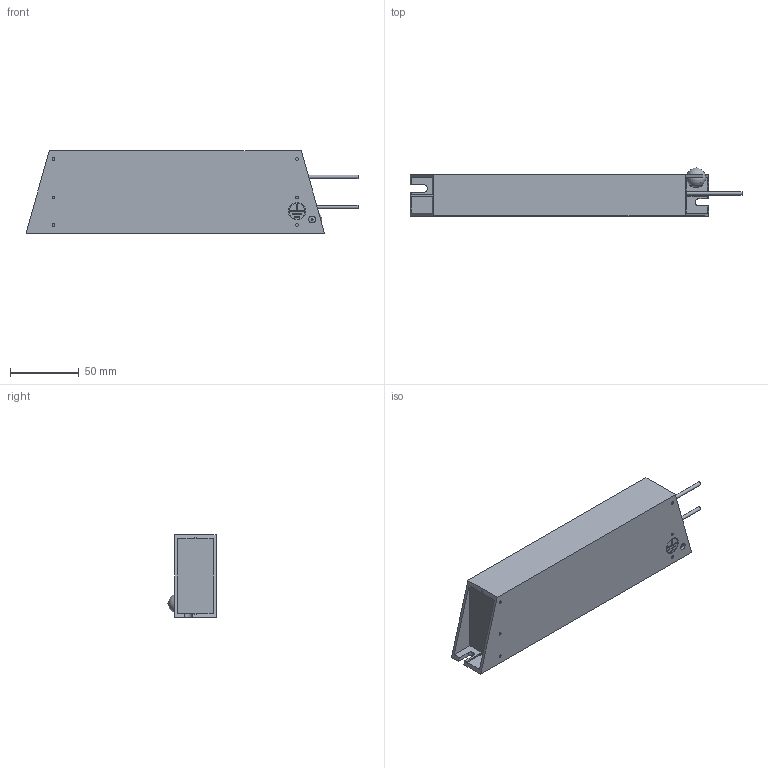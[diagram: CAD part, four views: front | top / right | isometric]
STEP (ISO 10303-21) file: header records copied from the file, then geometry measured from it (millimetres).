
FILE_DESCRIPTION(/* description */ ('STEP AP214'),/* implementation_level */ '2;1');
FILE_NAME(/* name */ 'psolqas_5636_927',/* time_stamp */ '2025-04-29T21:30:54+02:00',/* author */ ('License CC BY-ND 4.0'),/* organization */ ('CADENAS'),/* preprocessor_version */ 'ST-DEVELOPER v19.3',/* originating_system */ 'PARTsolutions',/* authorisation */ ' ');
FILE_SCHEMA (('AUTOMOTIVE_DESIGN {1 0 10303 214 3 1 1}'));
Length unit declared in the file: metre
Products named in the file (1): 2025_04_25_01_01_50_0377
Bounding box: 241.3 x 34.9 x 60 mm (x, y, z)
Volume: 333801.2 mm3; surface area: 44115.6 mm2
Topology: 1 solids, 1 shells, 147 faces, 379 edges, 257 vertices
Faces by surface type: plane 123, cylinder 22, cone 1, torus 1
Full cylindrical faces by diameter (mm): 2 x12, 2.4 x2, 5 x2, 9.5 x1, 9.6 x1, 11.5 x1, 12.5 x1
Entity records: 5250 total; most frequent: CARTESIAN_POINT 731, ORIENTED_EDGE 682, DIRECTION 682, EDGE_CURVE 341, LINE 296, VECTOR 296, VERTEX_POINT 242, FACE_BOUND 195
